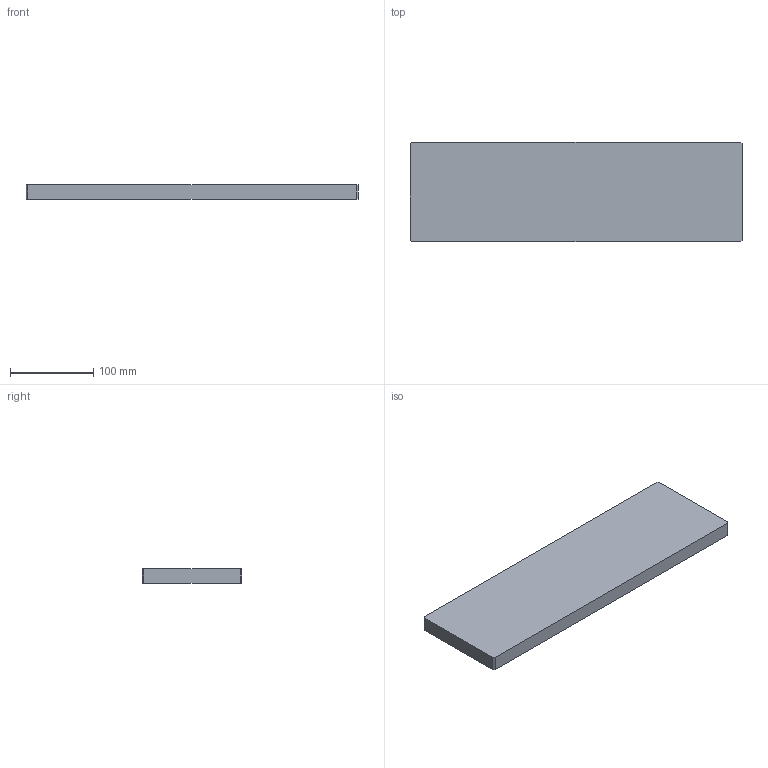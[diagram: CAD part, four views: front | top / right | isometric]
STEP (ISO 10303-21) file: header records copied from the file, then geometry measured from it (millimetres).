
FILE_DESCRIPTION(('Open CASCADE Model'),'2;1');
FILE_NAME('Open CASCADE Shape Model','2026-09-27T15:56:04',('Author'),( 'Open CASCADE'),'Open CASCADE STEP processor 7.9','Open CASCADE 7.9' ,'Unknown');
FILE_SCHEMA(('AUTOMOTIVE_DESIGN { 1 0 10303 214 1 1 1 1 }'));
Length unit declared in the file: millimetre
Products named in the file (1): Open CASCADE STEP translator 7.9 17
Bounding box: 400 x 120 x 18 mm (x, y, z)
Volume: 863856 mm3; surface area: 114619.6 mm2
Topology: 1 solids, 1 shells, 10 faces, 24 edges, 16 vertices
Faces by surface type: plane 10
Entity records: 610 total; most frequent: CARTESIAN_POINT 99, DIRECTION 94, LINE 72, VECTOR 72, ORIENTED_EDGE 48, PCURVE 48, DEFINITIONAL_REPRESENTATION 48, EDGE_CURVE 24
